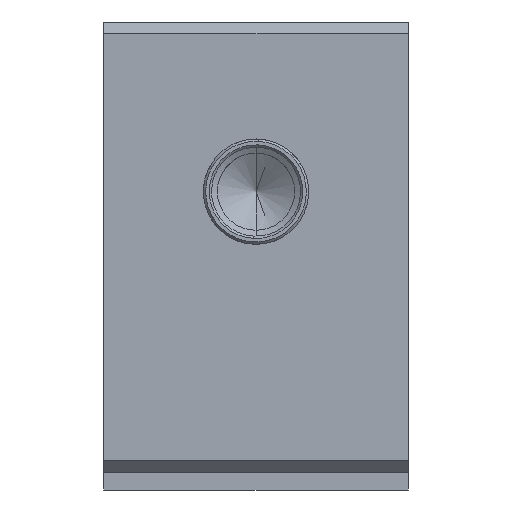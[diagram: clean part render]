
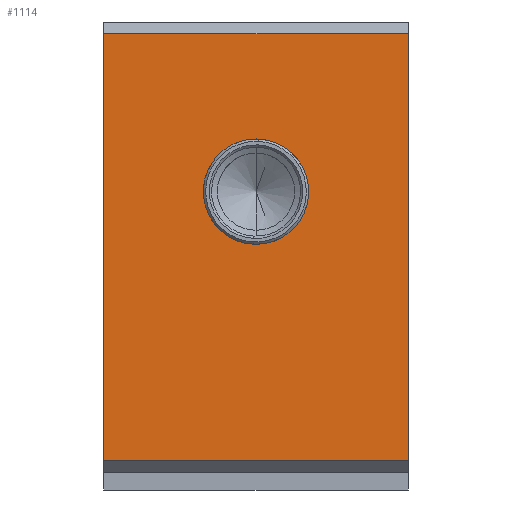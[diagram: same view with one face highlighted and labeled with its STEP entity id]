
A CAD part, left-side view. The second image highlights one B-rep face of the part: STEP entity #1114.
In plain terms, the highlighted planar face has unit normal (-1, 0, 0).
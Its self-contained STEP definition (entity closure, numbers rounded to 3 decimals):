
#21 = DIRECTION ( 'NONE',  ( 0., 1., 0. ) ) ;
#146 = CARTESIAN_POINT ( 'NONE',  ( 0., 6.5, -4.25 ) ) ;
#308 = DIRECTION ( 'NONE',  ( 1., 0., 0. ) ) ;
#330 = ORIENTED_EDGE ( 'NONE', *, *, #4661, .F. ) ;
#608 = DIRECTION ( 'NONE',  ( -1., 0., 0. ) ) ;
#694 = CARTESIAN_POINT ( 'NONE',  ( 0., 13., 0.25 ) ) ;
#889 = DIRECTION ( 'NONE',  ( 0., 0., -1. ) ) ;
#1083 = FACE_OUTER_BOUND ( 'NONE', #7625, .T. ) ;
#1114 = ADVANCED_FACE ( 'NONE', ( #4693, #1083 ), #7421, .F. ) ;
#1460 = CARTESIAN_POINT ( 'NONE',  ( 0., 13., 0. ) ) ;
#1576 = EDGE_CURVE ( 'NONE', #2629, #4688, #5588, .T. ) ;
#1723 = EDGE_CURVE ( 'NONE', #3664, #5459, #7111, .T. ) ;
#1775 = CARTESIAN_POINT ( 'NONE',  ( 0., 6.5, -6.5 ) ) ;
#1900 = VERTEX_POINT ( 'NONE', #3131 ) ;
#2010 = LINE ( 'NONE', #3381, #7020 ) ;
#2154 = AXIS2_PLACEMENT_3D ( 'NONE', #3270, #3881, #6786 ) ;
#2253 = CARTESIAN_POINT ( 'NONE',  ( 0., 6.5, -8.75 ) ) ;
#2629 = VERTEX_POINT ( 'NONE', #6903 ) ;
#2945 = EDGE_CURVE ( 'NONE', #4688, #1900, #2010, .T. ) ;
#3101 = ORIENTED_EDGE ( 'NONE', *, *, #1723, .F. ) ;
#3131 = CARTESIAN_POINT ( 'NONE',  ( 0., 0., 0.25 ) ) ;
#3270 = CARTESIAN_POINT ( 'NONE',  ( 0., 6.5, -6.5 ) ) ;
#3381 = CARTESIAN_POINT ( 'NONE',  ( 0., 0., 0. ) ) ;
#3459 = EDGE_CURVE ( 'NONE', #2629, #4000, #4779, .T. ) ;
#3558 = ORIENTED_EDGE ( 'NONE', *, *, #3459, .F. ) ;
#3664 = VERTEX_POINT ( 'NONE', #2253 ) ;
#3881 = DIRECTION ( 'NONE',  ( -1., 0., 0. ) ) ;
#3979 = CARTESIAN_POINT ( 'NONE',  ( 0., 13., -18. ) ) ;
#4000 = VERTEX_POINT ( 'NONE', #7132 ) ;
#4418 = VECTOR ( 'NONE', #7549, 1000. ) ;
#4421 = DIRECTION ( 'NONE',  ( 0., 0., 1. ) ) ;
#4490 = DIRECTION ( 'NONE',  ( 0., 0., 1. ) ) ;
#4494 = VECTOR ( 'NONE', #4421, 1000. ) ;
#4661 = EDGE_CURVE ( 'NONE', #5459, #3664, #6179, .T. ) ;
#4688 = VERTEX_POINT ( 'NONE', #6182 ) ;
#4693 = FACE_BOUND ( 'NONE', #7523, .T. ) ;
#4779 = LINE ( 'NONE', #7344, #4494 ) ;
#4866 = ORIENTED_EDGE ( 'NONE', *, *, #1576, .T. ) ;
#4933 = AXIS2_PLACEMENT_3D ( 'NONE', #1460, #308, #889 ) ;
#5013 = ORIENTED_EDGE ( 'NONE', *, *, #2945, .T. ) ;
#5084 = EDGE_CURVE ( 'NONE', #1900, #4000, #7131, .T. ) ;
#5348 = VECTOR ( 'NONE', #21, 1000. ) ;
#5360 = ORIENTED_EDGE ( 'NONE', *, *, #5084, .T. ) ;
#5459 = VERTEX_POINT ( 'NONE', #146 ) ;
#5588 = LINE ( 'NONE', #3979, #4418 ) ;
#5897 = DIRECTION ( 'NONE',  ( 0., 0., 1. ) ) ;
#6179 = CIRCLE ( 'NONE', #2154, 2.25 ) ;
#6182 = CARTESIAN_POINT ( 'NONE',  ( 0., 0., -18. ) ) ;
#6786 = DIRECTION ( 'NONE',  ( 0., 0., 1. ) ) ;
#6903 = CARTESIAN_POINT ( 'NONE',  ( 0., 13., -18. ) ) ;
#7020 = VECTOR ( 'NONE', #4490, 1000. ) ;
#7111 = CIRCLE ( 'NONE', #7494, 2.25 ) ;
#7131 = LINE ( 'NONE', #694, #5348 ) ;
#7132 = CARTESIAN_POINT ( 'NONE',  ( 0., 13., 0.25 ) ) ;
#7344 = CARTESIAN_POINT ( 'NONE',  ( 0., 13., 0. ) ) ;
#7421 = PLANE ( 'NONE',  #4933 ) ;
#7494 = AXIS2_PLACEMENT_3D ( 'NONE', #1775, #608, #5897 ) ;
#7523 = EDGE_LOOP ( 'NONE', ( #330, #3101 ) ) ;
#7549 = DIRECTION ( 'NONE',  ( 0., -1., 0. ) ) ;
#7625 = EDGE_LOOP ( 'NONE', ( #5013, #5360, #3558, #4866 ) ) ;
